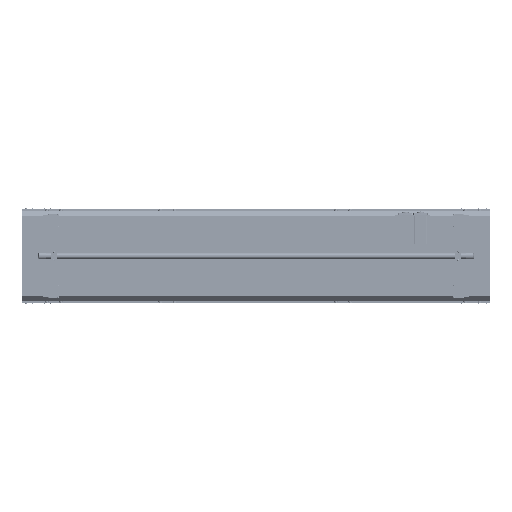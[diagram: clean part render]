
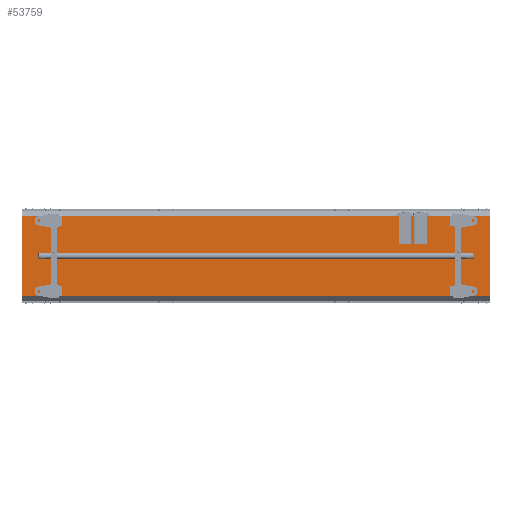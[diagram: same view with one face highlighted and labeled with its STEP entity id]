
A CAD part, front view. The second image highlights one B-rep face of the part: STEP entity #53759.
In plain terms, the highlighted planar face has unit normal (0, -1, 0).
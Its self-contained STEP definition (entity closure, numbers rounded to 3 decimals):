
#7371 = EDGE_CURVE ( 'NONE', #70381, #25864, #119829, .T. ) ;
#11060 = CARTESIAN_POINT ( 'NONE',  ( 0., -215.213, 169.787 ) ) ;
#18779 = DIRECTION ( 'NONE',  ( 0., 1., 0. ) ) ;
#18897 = LINE ( 'NONE', #37402, #105913 ) ;
#19028 = EDGE_LOOP ( 'NONE', ( #103684, #75797, #93608, #64838 ) ) ;
#19209 = DIRECTION ( 'NONE',  ( 0., 0., 1. ) ) ;
#25864 = VERTEX_POINT ( 'NONE', #66246 ) ;
#25942 = EDGE_CURVE ( 'NONE', #70381, #61943, #34842, .T. ) ;
#29521 = EDGE_CURVE ( 'NONE', #96504, #25864, #82136, .T. ) ;
#34842 = LINE ( 'NONE', #97958, #105993 ) ;
#37402 = CARTESIAN_POINT ( 'NONE',  ( 2424.709, -215.213, 169.787 ) ) ;
#46907 = FACE_OUTER_BOUND ( 'NONE', #19028, .T. ) ;
#49349 = PLANE ( 'NONE',  #101446 ) ;
#53759 = ADVANCED_FACE ( 'NONE', ( #46907 ), #49349, .F. ) ;
#53969 = CARTESIAN_POINT ( 'NONE',  ( 1985., -215.213, 169.787 ) ) ;
#61943 = VERTEX_POINT ( 'NONE', #53969 ) ;
#63673 = CARTESIAN_POINT ( 'NONE',  ( 1985., -215.213, -169.787 ) ) ;
#64838 = ORIENTED_EDGE ( 'NONE', *, *, #29521, .T. ) ;
#64966 = DIRECTION ( 'NONE',  ( -1., 0., 0. ) ) ;
#66246 = CARTESIAN_POINT ( 'NONE',  ( 0., -215.213, -169.787 ) ) ;
#70381 = VERTEX_POINT ( 'NONE', #120528 ) ;
#71412 = CARTESIAN_POINT ( 'NONE',  ( 0., -215.213, 169.787 ) ) ;
#75797 = ORIENTED_EDGE ( 'NONE', *, *, #25942, .T. ) ;
#79265 = CARTESIAN_POINT ( 'NONE',  ( 2424.709, -215.213, 169.787 ) ) ;
#82136 = LINE ( 'NONE', #11060, #99595 ) ;
#82654 = DIRECTION ( 'NONE',  ( 0., 0., -1. ) ) ;
#93608 = ORIENTED_EDGE ( 'NONE', *, *, #120792, .T. ) ;
#96504 = VERTEX_POINT ( 'NONE', #71412 ) ;
#96626 = DIRECTION ( 'NONE',  ( 0., 0., 1. ) ) ;
#97958 = CARTESIAN_POINT ( 'NONE',  ( 1985., -215.213, 169.787 ) ) ;
#99595 = VECTOR ( 'NONE', #82654, 1000. ) ;
#101446 = AXIS2_PLACEMENT_3D ( 'NONE', #79265, #18779, #19209 ) ;
#103684 = ORIENTED_EDGE ( 'NONE', *, *, #7371, .F. ) ;
#105913 = VECTOR ( 'NONE', #118387, 1000. ) ;
#105993 = VECTOR ( 'NONE', #96626, 1000. ) ;
#115111 = VECTOR ( 'NONE', #64966, 1000. ) ;
#118387 = DIRECTION ( 'NONE',  ( -1., 0., 0. ) ) ;
#119829 = LINE ( 'NONE', #63673, #115111 ) ;
#120528 = CARTESIAN_POINT ( 'NONE',  ( 1985., -215.213, -169.787 ) ) ;
#120792 = EDGE_CURVE ( 'NONE', #61943, #96504, #18897, .T. ) ;
